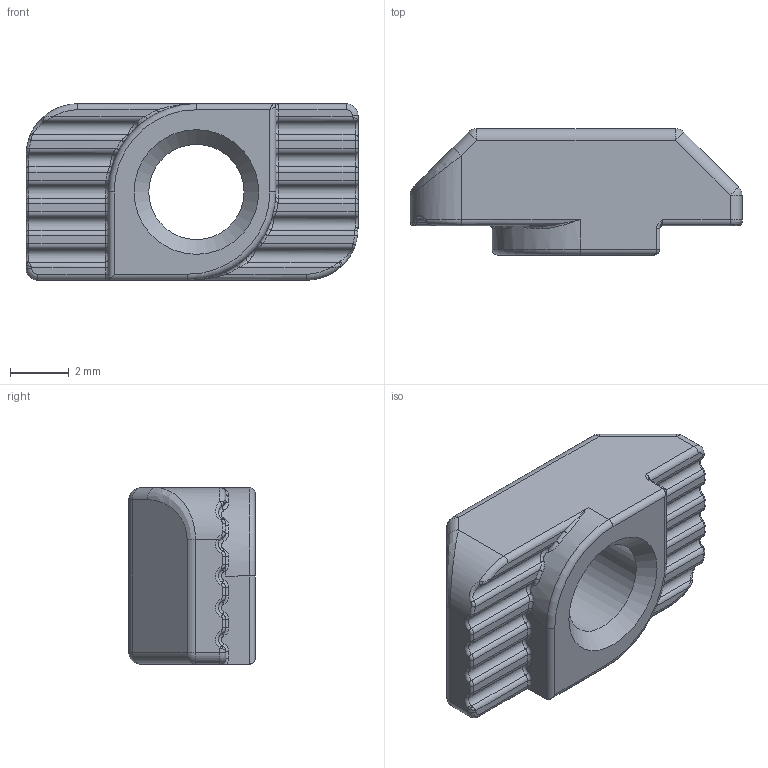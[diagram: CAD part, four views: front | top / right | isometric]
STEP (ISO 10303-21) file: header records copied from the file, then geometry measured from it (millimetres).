
FILE_DESCRIPTION(('FreeCAD Model'),'2;1');
FILE_NAME('Open CASCADE Shape Model','2021-05-04T11:22:05',('Author'),( ''),'Open CASCADE STEP processor 7.5','FreeCAD','Unknown');
FILE_SCHEMA(('AUTOMOTIVE_DESIGN { 1 0 10303 214 1 1 1 1 }'));
Length unit declared in the file: millimetre
Products named in the file (1): S206HM3
Bounding box: 11.3 x 4.3 x 6 mm (x, y, z)
Volume: 182.8 mm3; surface area: 260.7 mm2
Topology: 1 solids, 1 shells, 189 faces, 441 edges, 246 vertices
Faces by surface type: cylinder 70, bspline 49, torus 40, plane 22, sphere 6, cone 2
Full cylindrical faces by diameter (mm): 3.242 x1
Entity records: 13589 total; most frequent: CARTESIAN_POINT 5119, DIRECTION 1551, ORIENTED_EDGE 866, PCURVE 866, DEFINITIONAL_REPRESENTATION 866, LINE 750, VECTOR 750, EDGE_CURVE 433
